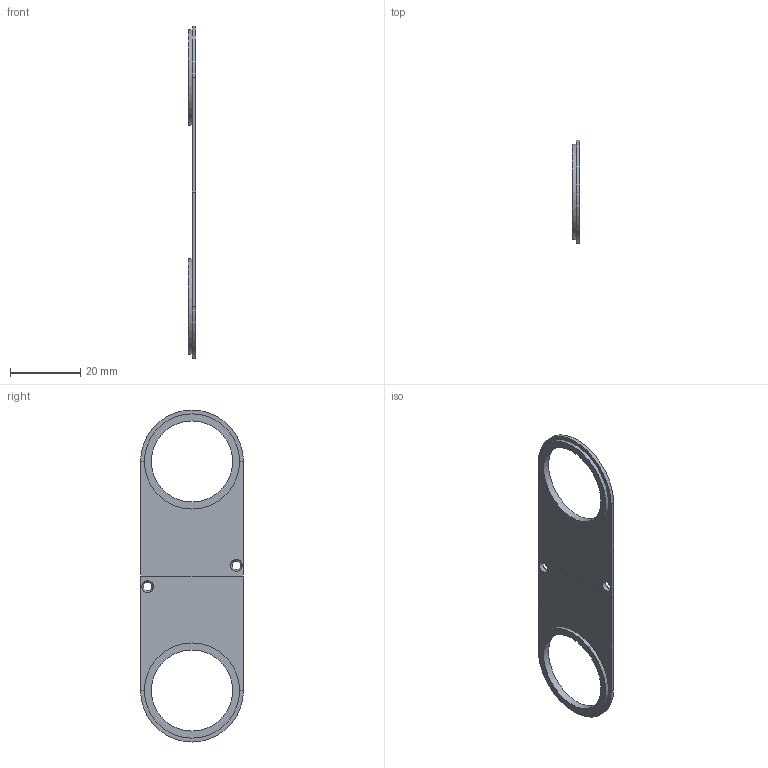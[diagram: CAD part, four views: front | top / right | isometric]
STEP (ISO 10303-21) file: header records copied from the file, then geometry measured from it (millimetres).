
FILE_DESCRIPTION(('FreeCAD Model'),'2;1');
FILE_NAME('/Users/alberto/Desktop/Dtto v2.0.1 STEP/011-1.step', '2017-05-29T11:48:11',('Author'),(''), 'Open CASCADE STEP processor 6.8','FreeCAD','Unknown');
FILE_SCHEMA(('AUTOMOTIVE_DESIGN_CC2 { 1 2 10303 214 -1 1 5 4 }'));
Length unit declared in the file: millimetre
Products named in the file (3): ASSEMBLY; Clone_of_Fusion160; Fusion160
Assembly tree (2 placements, depth 2):
  ASSEMBLY
    Clone_of_Fusion160
    Fusion160
Bounding box: 2 x 29.2 x 94.2 mm (x, y, z)
Volume: 2038.1 mm3; surface area: 4205.8 mm2
Topology: 2 solids, 2 shells, 30 faces, 70 edges, 44 vertices
Faces by surface type: plane 22, cylinder 6, cone 2
Full cylindrical faces by diameter (mm): 23 x2, 27 x2
Entity records: 1889 total; most frequent: CARTESIAN_POINT 359, DIRECTION 296, ORIENTED_EDGE 140, PCURVE 140, DEFINITIONAL_REPRESENTATION 140, LINE 134, VECTOR 134, EDGE_CURVE 70
